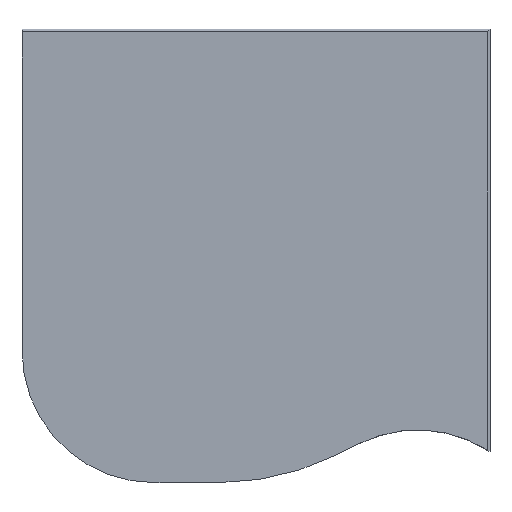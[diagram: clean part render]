
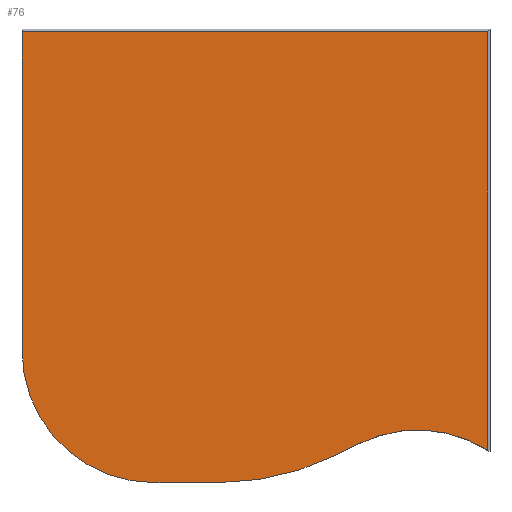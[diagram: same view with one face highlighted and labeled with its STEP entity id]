
A CAD part, top view. The second image highlights one B-rep face of the part: STEP entity #76.
In plain terms, the highlighted planar face has unit normal (0, 0, 1).
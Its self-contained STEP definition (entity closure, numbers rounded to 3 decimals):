
#76=ADVANCED_FACE('',(#162),#164,.T.);
#162=FACE_BOUND('',#163,.T.);
#163=EDGE_LOOP('',(#226,#227,#228,#229,#230,#231,#232,#233));
#164=PLANE('',#165);
#165=AXIS2_PLACEMENT_3D('',#166,#167,#168);
#166=CARTESIAN_POINT('',(0.,0.,0.8));
#167=DIRECTION('',(0.,0.,1.));
#168=DIRECTION('',(1.,0.,0.));
#226=ORIENTED_EDGE('',*,*,#274,.T.);
#227=ORIENTED_EDGE('',*,*,#273,.T.);
#228=ORIENTED_EDGE('',*,*,#275,.T.);
#229=ORIENTED_EDGE('',*,*,#276,.T.);
#230=ORIENTED_EDGE('',*,*,#277,.T.);
#231=ORIENTED_EDGE('',*,*,#278,.T.);
#232=ORIENTED_EDGE('',*,*,#279,.T.);
#233=ORIENTED_EDGE('',*,*,#267,.T.);
#267=EDGE_CURVE('',#293,#291,#294,.T.);
#273=EDGE_CURVE('',#298,#303,#305,.F.);
#274=EDGE_CURVE('',#291,#298,#306,.F.);
#275=EDGE_CURVE('',#303,#307,#308,.T.);
#276=EDGE_CURVE('',#307,#309,#310,.T.);
#277=EDGE_CURVE('',#309,#311,#312,.T.);
#278=EDGE_CURVE('',#311,#313,#314,.T.);
#279=EDGE_CURVE('',#313,#293,#315,.T.);
#291=VERTEX_POINT('',#331);
#293=VERTEX_POINT('',#336);
#294=CIRCLE('',#337,40.);
#298=VERTEX_POINT('',#349);
#303=VERTEX_POINT('',#358);
#305=LINE('',#362,#363);
#306=LINE('',#365,#366);
#307=VERTEX_POINT('',#368);
#308=LINE('',#369,#370);
#309=VERTEX_POINT('',#372);
#310=CIRCLE('',#373,40.);
#311=VERTEX_POINT('',#377);
#312=LINE('',#378,#379);
#313=VERTEX_POINT('',#381);
#314=CIRCLE('',#382,80.);
#315=LINE('',#386,#387);
#331=CARTESIAN_POINT('',(-158.837,-127.226,0.8));
#336=CARTESIAN_POINT('',(-197.894,-125.325,0.8));
#337=AXIS2_PLACEMENT_3D('',#338,#339,#340);
#338=CARTESIAN_POINT('',(-180.062,-161.13,0.8));
#339=DIRECTION('',(0.,0.,-1.));
#340=DIRECTION('',(-0.446,0.895,0.));
#349=CARTESIAN_POINT('',(-158.837,-0.442,0.8));
#358=CARTESIAN_POINT('',(-300.,-0.442,0.8));
#362=CARTESIAN_POINT('',(-300.,-0.442,0.8));
#363=VECTOR('',#364,1.);
#364=DIRECTION('',(1.,0.,0.));
#365=CARTESIAN_POINT('',(-158.837,-0.442,0.8));
#366=VECTOR('',#367,1.);
#367=DIRECTION('',(0.,-1.,0.));
#368=CARTESIAN_POINT('',(-300.,-97.073,0.8));
#369=CARTESIAN_POINT('',(-300.,-0.442,0.8));
#370=VECTOR('',#371,1.);
#371=DIRECTION('',(0.,-1.,0.));
#372=CARTESIAN_POINT('',(-260.,-137.073,0.8));
#373=AXIS2_PLACEMENT_3D('',#374,#375,#376);
#374=CARTESIAN_POINT('',(-260.,-97.073,0.8));
#375=DIRECTION('',(0.,0.,1.));
#376=DIRECTION('',(-1.,0.,0.));
#377=CARTESIAN_POINT('',(-240.302,-137.073,0.8));
#378=CARTESIAN_POINT('',(-260.,-137.073,0.8));
#379=VECTOR('',#380,1.);
#380=DIRECTION('',(1.,0.,0.));
#381=CARTESIAN_POINT('',(-204.638,-128.684,0.8));
#382=AXIS2_PLACEMENT_3D('',#383,#384,#385);
#383=CARTESIAN_POINT('',(-240.302,-57.073,0.8));
#384=DIRECTION('',(0.,0.,1.));
#385=DIRECTION('',(0.,-1.,0.));
#386=CARTESIAN_POINT('',(-204.638,-128.684,0.8));
#387=VECTOR('',#388,1.);
#388=DIRECTION('',(0.895,0.446,0.));
